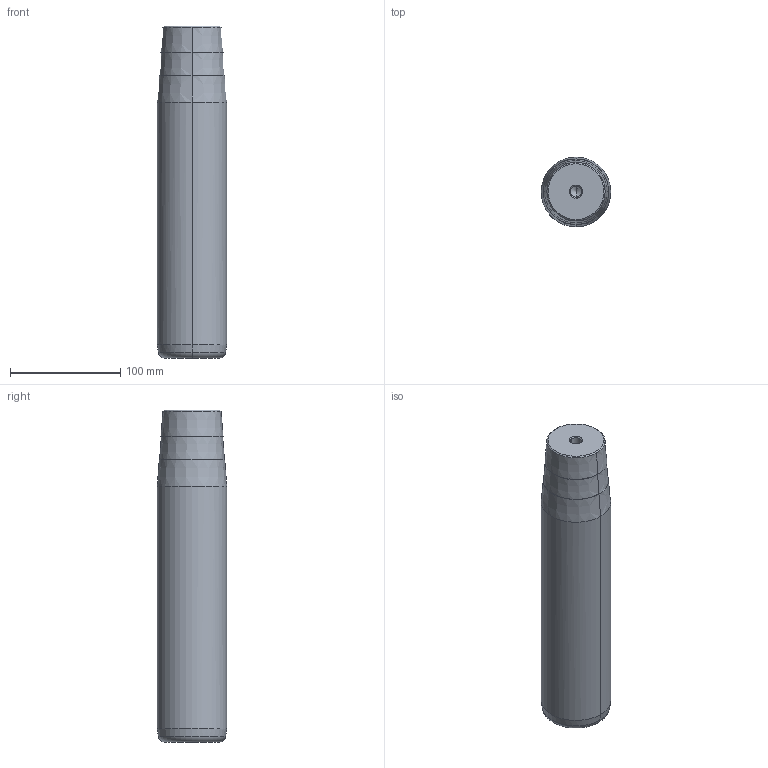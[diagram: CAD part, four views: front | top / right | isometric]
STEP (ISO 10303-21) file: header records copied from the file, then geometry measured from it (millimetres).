
FILE_DESCRIPTION(('CATIA V5 STEP Exchange'),'2;1');
FILE_NAME('C:\Users\Utente\Desktop\IO LAVORO\3D X SITO CF\X SITO\722\722-63x250x301.stp','2021-01-07T19:23:03+00:00',('none'),('none'),'CATIA Version 5 Release 20 GA (IN-10)','CATIA V5 STEP AP203','none');
FILE_SCHEMA(('CONFIG_CONTROL_DESIGN'));
Length unit declared in the file: millimetre
Products named in the file (1): 722-63x250x301
Bounding box: 63 x 63 x 301 mm (x, y, z)
Volume: 896501.8 mm3; surface area: 64822.4 mm2
Topology: 1 solids, 1 shells, 32 faces, 98 edges, 66 vertices
Faces by surface type: cone 22, cylinder 6, plane 2, torus 2
Entity records: 1172 total; most frequent: CARTESIAN_POINT 285, ORIENTED_EDGE 188, DIRECTION 148, EDGE_CURVE 94, AXIS2_PLACEMENT_3D 89, VERTEX_POINT 66, CIRCLE 56, EDGE_LOOP 34
